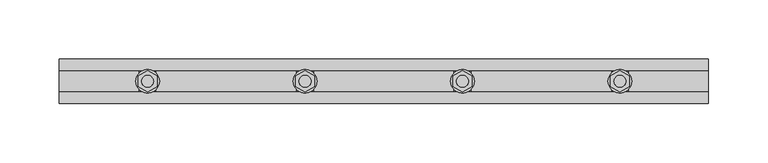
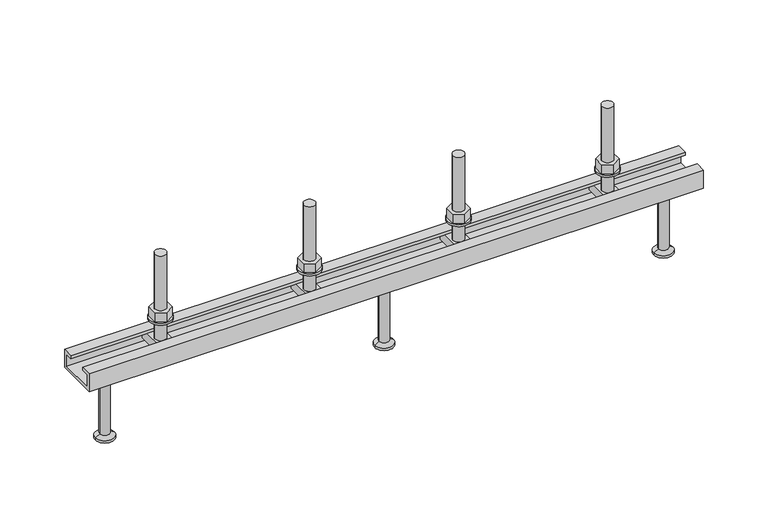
"""IFC4 building model written with IfcOpenShell, lengths in millimetres: fastener geometry, JTA-K JORDAHL® AnchorChannels : JTA-K L=550 mm."""

from ifc_helpers import new_model, si_unit, point, frame, frame_2d, origin, place, context, project, spatial, polyline, circle_curve, trimmed, segment, composite_curve, outline, extrude, source, transform, mapped, element, save
from ifc_brep_helpers import plane_surface, cylinder_surface, revolved_surface, advanced_brep


def fastener_b281879b(model_context):
    return source(origin(), model_context, "Body", "SolidModel", [
        extrude(outline(polyline([(341.6666667, 9.2376043), (349.6666667, 4.6188022), (349.6666667, -4.6188022), (341.6666667, -9.2376043), (333.6666667, -4.6188022), (333.6666667, 4.6188022), (341.6666667, 9.2376043)]), holes=[composite_curve([segment(trimmed(circle_curve(frame_2d((341.6666667, 0.0)), 5.0), [point((336.6666667, 0.0))], [point((346.6666667, 0.0))], True, "CARTESIAN"), True, "CONTINUOUS"), segment(trimmed(circle_curve(frame_2d((341.6666667, 0.0)), 5.0), [point((346.6666667, 0.0))], [point((336.6666667, 0.0))], True, "CARTESIAN"), True, "CONTINUOUS")], self_intersect=False)]), frame((0.0, 0.0, 17.0), z_axis=(0.0, 0.0, 1.0), x_axis=(1.0, 0.0, 0.0)), (0.0, 0.0, 1.0), 8.4),
        extrude(outline(composite_curve([segment(trimmed(circle_curve(frame_2d((341.6666667, 0.0)), 10.0), [point((331.6666667, 0.0))], [point((351.6666667, 0.0))], False, "CARTESIAN"), True, "CONTINUOUS"), segment(trimmed(circle_curve(frame_2d((341.6666667, 0.0)), 10.0), [point((351.6666667, 0.0))], [point((331.6666667, 0.0))], False, "CARTESIAN"), True, "CONTINUOUS")], self_intersect=False), holes=[composite_curve([segment(trimmed(circle_curve(frame_2d((341.6666667, 0.0)), 5.25), [point((336.4166667, 0.0))], [point((346.9166667, 0.0))], True, "CARTESIAN"), True, "CONTINUOUS"), segment(trimmed(circle_curve(frame_2d((341.6666667, 0.0)), 5.25), [point((346.9166667, 0.0))], [point((336.4166667, 0.0))], True, "CARTESIAN"), True, "CONTINUOUS")], self_intersect=False)]), frame((0.0, 0.0, 15.0), z_axis=(0.0, 0.0, 1.0), x_axis=(1.0, 0.0, 0.0)), (0.0, 0.0, 1.0), 2.0),
        extrude(outline(polyline([(208.3333333, 9.2376043), (216.3333333, 4.6188022), (216.3333333, -4.6188022), (208.3333333, -9.2376043), (200.3333333, -4.6188022), (200.3333333, 4.6188022), (208.3333333, 9.2376043)]), holes=[composite_curve([segment(trimmed(circle_curve(frame_2d((208.3333333, 0.0)), 5.0), [point((203.3333333, 0.0))], [point((213.3333333, 0.0))], True, "CARTESIAN"), True, "CONTINUOUS"), segment(trimmed(circle_curve(frame_2d((208.3333333, 0.0)), 5.0), [point((213.3333333, 0.0))], [point((203.3333333, 0.0))], True, "CARTESIAN"), True, "CONTINUOUS")], self_intersect=False)]), frame((0.0, 0.0, 17.0), z_axis=(0.0, 0.0, 1.0), x_axis=(1.0, 0.0, 0.0)), (0.0, 0.0, 1.0), 8.4),
        extrude(outline(composite_curve([segment(trimmed(circle_curve(frame_2d((208.3333333, 0.0)), 10.0), [point((198.3333333, 0.0))], [point((218.3333333, 0.0))], False, "CARTESIAN"), True, "CONTINUOUS"), segment(trimmed(circle_curve(frame_2d((208.3333333, 0.0)), 10.0), [point((218.3333333, 0.0))], [point((198.3333333, 0.0))], False, "CARTESIAN"), True, "CONTINUOUS")], self_intersect=False), holes=[composite_curve([segment(trimmed(circle_curve(frame_2d((208.3333333, 0.0)), 5.25), [point((203.0833333, 0.0))], [point((213.5833333, 0.0))], True, "CARTESIAN"), True, "CONTINUOUS"), segment(trimmed(circle_curve(frame_2d((208.3333333, 0.0)), 5.25), [point((213.5833333, 0.0))], [point((203.0833333, 0.0))], True, "CARTESIAN"), True, "CONTINUOUS")], self_intersect=False)]), frame((0.0, 0.0, 15.0), z_axis=(0.0, 0.0, 1.0), x_axis=(1.0, 0.0, 0.0)), (0.0, 0.0, 1.0), 2.0),
        advanced_brep(
        [(348.6666667, 16.0, -3.0), (348.6666667, -16.0, -3.0), (348.6666667, -16.0, -11.0), (348.6666667, 16.0, -11.0), (334.6666667, 16.0, -3.0), (334.6666667, 16.0, -11.0), (334.6666667, -16.0, -11.0), (334.6666667, -16.0, -3.0), (346.6666667, 0.0, -3.0), (336.6666667, 0.0, -3.0), (336.6666667, 0.0, 77.0), (346.6666667, 0.0, 77.0)],
        [
            (0, 1),
            (1, 2),
            (2, 3),
            (3, 0),
            (4, 5),
            (5, 6),
            (6, 7),
            (7, 4),
            (0, 4),
            (7, 1),
            (8, 9, circle_curve(frame((341.6666667, 0.0, -3.0), z_axis=(0.0, 0.0, -1.0), x_axis=(1.0, 0.0, 0.0)), 5.0)),
            (9, 8, circle_curve(frame((341.6666667, 0.0, -3.0), z_axis=(0.0, 0.0, -1.0), x_axis=(1.0, 0.0, 0.0)), 5.0)),
            (6, 2),
            (5, 3),
            (10, 11, circle_curve(frame((341.6666667, 0.0, 77.0), z_axis=(0.0, 0.0, 1.0), x_axis=(1.0, 0.0, 0.0)), 5.0)),
            (11, 10, circle_curve(frame((341.6666667, 0.0, 77.0), z_axis=(0.0, 0.0, 1.0), x_axis=(1.0, 0.0, 0.0)), 5.0)),
            (10, 9),
            (8, 11),
        ],
        [
            plane_surface(frame((348.6666667, -16.0, -3.0), z_axis=(1.0, 0.0, 0.0), x_axis=(0.0, -1.0, 0.0))),
            plane_surface(frame((334.6666667, -16.0, -3.0), z_axis=(-1.0, 0.0, 0.0), x_axis=(0.0, 1.0, 0.0))),
            plane_surface(frame((348.6666667, 16.0, -3.0), z_axis=(0.0, 0.0, 1.0), x_axis=(-1.0, 0.0, 0.0))),
            plane_surface(frame((348.6666667, -16.0, -3.0), z_axis=(0.0, -1.0, 0.0), x_axis=(-1.0, 0.0, 0.0))),
            plane_surface(frame((348.6666667, -16.0, -11.0), z_axis=(0.0, 0.0, -1.0), x_axis=(-1.0, 0.0, 0.0))),
            plane_surface(frame((348.6666667, 16.0, -11.0), z_axis=(0.0, 1.0, 0.0), x_axis=(-1.0, 0.0, 0.0))),
            plane_surface(frame((346.6666667, 0.0, 77.0), z_axis=(0.0, 0.0, 1.0), x_axis=(0.0, 1.0, 0.0))),
            cylinder_surface(frame((341.6666667, 0.0, -3.0), z_axis=(0.0, 0.0, 1.0), x_axis=(1.0, 0.0, 0.0)), 5.0),
        ],
        [
            (0, [[1, 2, 3, 4]]),
            (1, [[5, 6, 7, 8]]),
            (2, [[-1, 9, -8, 10], [11, 12]]),
            (3, [[-2, -10, -7, 13]]),
            (4, [[-3, -13, -6, 14]]),
            (5, [[-4, -14, -5, -9]]),
            (6, [[15, 16]]),
            (7, [[-15, 17, -11, 18]]),
            (7, [[-16, -18, -12, -17]]),
        ],
    ),
        advanced_brep(
        [(215.3333333, 16.0, -3.0), (215.3333333, -16.0, -3.0), (215.3333333, -16.0, -11.0), (215.3333333, 16.0, -11.0), (201.3333333, 16.0, -3.0), (201.3333333, 16.0, -11.0), (201.3333333, -16.0, -11.0), (201.3333333, -16.0, -3.0), (213.3333333, 0.0, -3.0), (203.3333333, 0.0, -3.0), (203.3333333, 0.0, 77.0), (213.3333333, 0.0, 77.0)],
        [
            (0, 1),
            (1, 2),
            (2, 3),
            (3, 0),
            (4, 5),
            (5, 6),
            (6, 7),
            (7, 4),
            (0, 4),
            (7, 1),
            (8, 9, circle_curve(frame((208.3333333, 0.0, -3.0), z_axis=(0.0, 0.0, -1.0), x_axis=(1.0, 0.0, 0.0)), 5.0)),
            (9, 8, circle_curve(frame((208.3333333, 0.0, -3.0), z_axis=(0.0, 0.0, -1.0), x_axis=(1.0, 0.0, 0.0)), 5.0)),
            (6, 2),
            (5, 3),
            (10, 11, circle_curve(frame((208.3333333, 0.0, 77.0), z_axis=(0.0, 0.0, 1.0), x_axis=(1.0, 0.0, 0.0)), 5.0)),
            (11, 10, circle_curve(frame((208.3333333, 0.0, 77.0), z_axis=(0.0, 0.0, 1.0), x_axis=(1.0, 0.0, 0.0)), 5.0)),
            (10, 9),
            (8, 11),
        ],
        [
            plane_surface(frame((215.3333333, -16.0, -3.0), z_axis=(1.0, 0.0, 0.0), x_axis=(0.0, -1.0, 0.0))),
            plane_surface(frame((201.3333333, -16.0, -3.0), z_axis=(-1.0, 0.0, 0.0), x_axis=(0.0, 1.0, 0.0))),
            plane_surface(frame((215.3333333, 16.0, -3.0), z_axis=(0.0, 0.0, 1.0), x_axis=(-1.0, 0.0, 0.0))),
            plane_surface(frame((215.3333333, -16.0, -3.0), z_axis=(0.0, -1.0, 0.0), x_axis=(-1.0, 0.0, 0.0))),
            plane_surface(frame((215.3333333, -16.0, -11.0), z_axis=(0.0, 0.0, -1.0), x_axis=(-1.0, 0.0, 0.0))),
            plane_surface(frame((215.3333333, 16.0, -11.0), z_axis=(0.0, 1.0, 0.0), x_axis=(-1.0, 0.0, 0.0))),
            plane_surface(frame((213.3333333, 0.0, 77.0), z_axis=(0.0, 0.0, 1.0), x_axis=(0.0, 1.0, 0.0))),
            cylinder_surface(frame((208.3333333, 0.0, -3.0), z_axis=(0.0, 0.0, 1.0), x_axis=(1.0, 0.0, 0.0)), 5.0),
        ],
        [
            (0, [[1, 2, 3, 4]]),
            (1, [[5, 6, 7, 8]]),
            (2, [[-1, 9, -8, 10], [11, 12]]),
            (3, [[-2, -10, -7, 13]]),
            (4, [[-3, -13, -6, 14]]),
            (5, [[-4, -14, -5, -9]]),
            (6, [[15, 16]]),
            (7, [[-15, 17, -11, 18]]),
            (7, [[-16, -18, -12, -17]]),
        ],
    ),
        advanced_brep(
        [(275.0, 0.0, -17.0), (288.5, 0.0, -17.0), (261.5, 0.0, -17.0), (266.5, 0.0, -80.0), (283.5, 0.0, -80.0), (275.0, 0.0, -80.0), (266.5, 0.0, -78.0), (283.5, 0.0, -78.0), (270.5, 0.0, -75.6905989), (279.5, 0.0, -75.6905989), (270.5, 0.0, -19.5), (279.5, 0.0, -19.5)],
        [
            (0, 1),
            (1, 2, circle_curve(frame((275.0, 0.0, -17.0), z_axis=(0.0, 0.0, 1.0), x_axis=(1.0, 0.0, 0.0)), 13.5)),
            (2, 0),
            (2, 1, circle_curve(frame((275.0, 0.0, -17.0), z_axis=(0.0, 0.0, 1.0), x_axis=(1.0, 0.0, 0.0)), 13.5)),
            (3, 4, circle_curve(frame((275.0, 0.0, -80.0), z_axis=(0.0, 0.0, -1.0), x_axis=(1.0, 0.0, 0.0)), 8.5)),
            (4, 5),
            (5, 3),
            (4, 3, circle_curve(frame((275.0, 0.0, -80.0), z_axis=(0.0, 0.0, -1.0), x_axis=(1.0, 0.0, 0.0)), 8.5)),
            (6, 7, circle_curve(frame((275.0, 0.0, -78.0), z_axis=(0.0, 0.0, -1.0), x_axis=(1.0, 0.0, 0.0)), 8.5)),
            (7, 4),
            (3, 6),
            (7, 6, circle_curve(frame((275.0, 0.0, -78.0), z_axis=(0.0, 0.0, -1.0), x_axis=(1.0, 0.0, 0.0)), 8.5)),
            (8, 9, circle_curve(frame((275.0, 0.0, -75.6905989), z_axis=(0.0, 0.0, -1.0), x_axis=(1.0, 0.0, 0.0)), 4.5)),
            (9, 7),
            (6, 8),
            (9, 8, circle_curve(frame((275.0, 0.0, -75.6905989), z_axis=(0.0, 0.0, -1.0), x_axis=(1.0, 0.0, 0.0)), 4.5)),
            (10, 11, circle_curve(frame((275.0, 0.0, -19.5), z_axis=(0.0, 0.0, -1.0), x_axis=(1.0, 0.0, 0.0)), 4.5)),
            (11, 9),
            (8, 10),
            (11, 10, circle_curve(frame((275.0, 0.0, -19.5), z_axis=(0.0, 0.0, -1.0), x_axis=(1.0, 0.0, 0.0)), 4.5)),
            (1, 11),
            (10, 2),
        ],
        [
            plane_surface(frame((275.0, 0.0, -17.0), z_axis=(0.0, 0.0, 1.0), x_axis=(1.0, 0.0, 0.0))),
            plane_surface(frame((275.0, 0.0, -80.0), z_axis=(0.0, 0.0, -1.0), x_axis=(1.0, 0.0, 0.0))),
            cylinder_surface(frame((275.0, 0.0, 2277.3150031), z_axis=(0.0, 0.0, 1.0), x_axis=(1.0, 0.0, 0.0)), 8.5),
            revolved_surface(polyline([(283.5, 0.0, -78.0), (279.5, 0.0, -75.6905989)]), (275.0, 0.0, 2277.3150031), (0.0, 0.0, 1.0)),
            cylinder_surface(frame((275.0, 0.0, 2277.3150031), z_axis=(0.0, 0.0, 1.0), x_axis=(1.0, 0.0, 0.0)), 4.5),
            revolved_surface(polyline([(279.5, 0.0, -19.5), (288.5, 0.0, -17.0)]), (275.0, 0.0, 2277.3150031), (0.0, 0.0, 1.0)),
        ],
        [
            (0, [[1, 2, 3]]),
            (0, [[-3, 4, -1]]),
            (1, [[5, 6, 7]]),
            (1, [[8, -7, -6]]),
            (2, [[9, 10, -5, 11]]),
            (2, [[12, -11, -8, -10]]),
            (3, [[13, 14, -9, 15]]),
            (3, [[16, -15, -12, -14]]),
            (4, [[17, 18, -13, 19]]),
            (4, [[20, -19, -16, -18]]),
            (5, [[-2, 21, -17, 22]]),
            (5, [[-4, -22, -20, -21]]),
        ],
    ),
        extrude(outline(polyline([(475.0, 9.2376043), (483.0, 4.6188022), (483.0, -4.6188022), (475.0, -9.2376043), (467.0, -4.6188022), (467.0, 4.6188022), (475.0, 9.2376043)]), holes=[composite_curve([segment(trimmed(circle_curve(frame_2d((475.0, 0.0)), 5.0), [point((470.0, 0.0))], [point((480.0, 0.0))], True, "CARTESIAN"), True, "CONTINUOUS"), segment(trimmed(circle_curve(frame_2d((475.0, 0.0)), 5.0), [point((480.0, 0.0))], [point((470.0, 0.0))], True, "CARTESIAN"), True, "CONTINUOUS")], self_intersect=False)]), frame((0.0, 0.0, 17.0), z_axis=(0.0, 0.0, 1.0), x_axis=(1.0, 0.0, 0.0)), (0.0, 0.0, 1.0), 8.4),
        extrude(outline(composite_curve([segment(trimmed(circle_curve(frame_2d((475.0, 0.0)), 10.0), [point((465.0, 0.0))], [point((485.0, 0.0))], False, "CARTESIAN"), True, "CONTINUOUS"), segment(trimmed(circle_curve(frame_2d((475.0, 0.0)), 10.0), [point((485.0, 0.0))], [point((465.0, 0.0))], False, "CARTESIAN"), True, "CONTINUOUS")], self_intersect=False), holes=[composite_curve([segment(trimmed(circle_curve(frame_2d((475.0, 0.0)), 5.25), [point((469.75, 0.0))], [point((480.25, 0.0))], True, "CARTESIAN"), True, "CONTINUOUS"), segment(trimmed(circle_curve(frame_2d((475.0, 0.0)), 5.25), [point((480.25, 0.0))], [point((469.75, 0.0))], True, "CARTESIAN"), True, "CONTINUOUS")], self_intersect=False)]), frame((0.0, 0.0, 15.0), z_axis=(0.0, 0.0, 1.0), x_axis=(1.0, 0.0, 0.0)), (0.0, 0.0, 1.0), 2.0),
        extrude(outline(polyline([(75.0, 9.2376043), (83.0, 4.6188022), (83.0, -4.6188022), (75.0, -9.2376043), (67.0, -4.6188022), (67.0, 4.6188022), (75.0, 9.2376043)]), holes=[composite_curve([segment(trimmed(circle_curve(frame_2d((75.0, 0.0)), 5.0), [point((70.0, 0.0))], [point((80.0, 0.0))], True, "CARTESIAN"), True, "CONTINUOUS"), segment(trimmed(circle_curve(frame_2d((75.0, 0.0)), 5.0), [point((80.0, 0.0))], [point((70.0, 0.0))], True, "CARTESIAN"), True, "CONTINUOUS")], self_intersect=False)]), frame((0.0, 0.0, 17.0), z_axis=(0.0, 0.0, 1.0), x_axis=(1.0, 0.0, 0.0)), (0.0, 0.0, 1.0), 8.4),
        extrude(outline(composite_curve([segment(trimmed(circle_curve(frame_2d((75.0, 0.0)), 10.0), [point((65.0, 0.0))], [point((85.0, 0.0))], False, "CARTESIAN"), True, "CONTINUOUS"), segment(trimmed(circle_curve(frame_2d((75.0, 0.0)), 10.0), [point((85.0, 0.0))], [point((65.0, 0.0))], False, "CARTESIAN"), True, "CONTINUOUS")], self_intersect=False), holes=[composite_curve([segment(trimmed(circle_curve(frame_2d((75.0, 0.0)), 5.25), [point((69.75, 0.0))], [point((80.25, 0.0))], True, "CARTESIAN"), True, "CONTINUOUS"), segment(trimmed(circle_curve(frame_2d((75.0, 0.0)), 5.25), [point((80.25, 0.0))], [point((69.75, 0.0))], True, "CARTESIAN"), True, "CONTINUOUS")], self_intersect=False)]), frame((0.0, 0.0, 15.0), z_axis=(0.0, 0.0, 1.0), x_axis=(1.0, 0.0, 0.0)), (0.0, 0.0, 1.0), 2.0),
        advanced_brep(
        [(482.0, 16.0, -3.0), (482.0, -16.0, -3.0), (482.0, -16.0, -11.0), (482.0, 16.0, -11.0), (468.0, 16.0, -3.0), (468.0, 16.0, -11.0), (468.0, -16.0, -11.0), (468.0, -16.0, -3.0), (480.0, 0.0, -3.0), (470.0, 0.0, -3.0), (470.0, 0.0, 77.0), (480.0, 0.0, 77.0)],
        [
            (0, 1),
            (1, 2),
            (2, 3),
            (3, 0),
            (4, 5),
            (5, 6),
            (6, 7),
            (7, 4),
            (0, 4),
            (7, 1),
            (8, 9, circle_curve(frame((475.0, 0.0, -3.0), z_axis=(0.0, 0.0, -1.0), x_axis=(1.0, 0.0, 0.0)), 5.0)),
            (9, 8, circle_curve(frame((475.0, 0.0, -3.0), z_axis=(0.0, 0.0, -1.0), x_axis=(1.0, 0.0, 0.0)), 5.0)),
            (6, 2),
            (5, 3),
            (10, 11, circle_curve(frame((475.0, 0.0, 77.0), z_axis=(0.0, 0.0, 1.0), x_axis=(1.0, 0.0, 0.0)), 5.0)),
            (11, 10, circle_curve(frame((475.0, 0.0, 77.0), z_axis=(0.0, 0.0, 1.0), x_axis=(1.0, 0.0, 0.0)), 5.0)),
            (10, 9),
            (8, 11),
        ],
        [
            plane_surface(frame((482.0, -16.0, -3.0), z_axis=(1.0, 0.0, 0.0), x_axis=(0.0, -1.0, 0.0))),
            plane_surface(frame((468.0, -16.0, -3.0), z_axis=(-1.0, 0.0, 0.0), x_axis=(0.0, 1.0, 0.0))),
            plane_surface(frame((482.0, 16.0, -3.0), z_axis=(0.0, 0.0, 1.0), x_axis=(-1.0, 0.0, 0.0))),
            plane_surface(frame((482.0, -16.0, -3.0), z_axis=(0.0, -1.0, 0.0), x_axis=(-1.0, 0.0, 0.0))),
            plane_surface(frame((482.0, -16.0, -11.0), z_axis=(0.0, 0.0, -1.0), x_axis=(-1.0, 0.0, 0.0))),
            plane_surface(frame((482.0, 16.0, -11.0), z_axis=(0.0, 1.0, 0.0), x_axis=(-1.0, 0.0, 0.0))),
            plane_surface(frame((480.0, 0.0, 77.0), z_axis=(0.0, 0.0, 1.0), x_axis=(0.0, 1.0, 0.0))),
            cylinder_surface(frame((475.0, 0.0, -3.0), z_axis=(0.0, 0.0, 1.0), x_axis=(1.0, 0.0, 0.0)), 5.0),
        ],
        [
            (0, [[1, 2, 3, 4]]),
            (1, [[5, 6, 7, 8]]),
            (2, [[-1, 9, -8, 10], [11, 12]]),
            (3, [[-2, -10, -7, 13]]),
            (4, [[-3, -13, -6, 14]]),
            (5, [[-4, -14, -5, -9]]),
            (6, [[15, 16]]),
            (7, [[-15, 17, -11, 18]]),
            (7, [[-16, -18, -12, -17]]),
        ],
    ),
        advanced_brep(
        [(82.0, 16.0, -3.0), (82.0, -16.0, -3.0), (82.0, -16.0, -11.0), (82.0, 16.0, -11.0), (68.0, 16.0, -3.0), (68.0, 16.0, -11.0), (68.0, -16.0, -11.0), (68.0, -16.0, -3.0), (80.0, 0.0, -3.0), (70.0, 0.0, -3.0), (70.0, 0.0, 77.0), (80.0, 0.0, 77.0)],
        [
            (0, 1),
            (1, 2),
            (2, 3),
            (3, 0),
            (4, 5),
            (5, 6),
            (6, 7),
            (7, 4),
            (0, 4),
            (7, 1),
            (8, 9, circle_curve(frame((75.0, 0.0, -3.0), z_axis=(0.0, 0.0, -1.0), x_axis=(1.0, 0.0, 0.0)), 5.0)),
            (9, 8, circle_curve(frame((75.0, 0.0, -3.0), z_axis=(0.0, 0.0, -1.0), x_axis=(1.0, 0.0, 0.0)), 5.0)),
            (6, 2),
            (5, 3),
            (10, 11, circle_curve(frame((75.0, 0.0, 77.0), z_axis=(0.0, 0.0, 1.0), x_axis=(1.0, 0.0, 0.0)), 5.0)),
            (11, 10, circle_curve(frame((75.0, 0.0, 77.0), z_axis=(0.0, 0.0, 1.0), x_axis=(1.0, 0.0, 0.0)), 5.0)),
            (10, 9),
            (8, 11),
        ],
        [
            plane_surface(frame((82.0, -16.0, -3.0), z_axis=(1.0, 0.0, 0.0), x_axis=(0.0, -1.0, 0.0))),
            plane_surface(frame((68.0, -16.0, -3.0), z_axis=(-1.0, 0.0, 0.0), x_axis=(0.0, 1.0, 0.0))),
            plane_surface(frame((82.0, 16.0, -3.0), z_axis=(0.0, 0.0, 1.0), x_axis=(-1.0, 0.0, 0.0))),
            plane_surface(frame((82.0, -16.0, -3.0), z_axis=(0.0, -1.0, 0.0), x_axis=(-1.0, 0.0, 0.0))),
            plane_surface(frame((82.0, -16.0, -11.0), z_axis=(0.0, 0.0, -1.0), x_axis=(-1.0, 0.0, 0.0))),
            plane_surface(frame((82.0, 16.0, -11.0), z_axis=(0.0, 1.0, 0.0), x_axis=(-1.0, 0.0, 0.0))),
            plane_surface(frame((80.0, 0.0, 77.0), z_axis=(0.0, 0.0, 1.0), x_axis=(0.0, 1.0, 0.0))),
            cylinder_surface(frame((75.0, 0.0, -3.0), z_axis=(0.0, 0.0, 1.0), x_axis=(1.0, 0.0, 0.0)), 5.0),
        ],
        [
            (0, [[1, 2, 3, 4]]),
            (1, [[5, 6, 7, 8]]),
            (2, [[-1, 9, -8, 10], [11, 12]]),
            (3, [[-2, -10, -7, 13]]),
            (4, [[-3, -13, -6, 14]]),
            (5, [[-4, -14, -5, -9]]),
            (6, [[15, 16]]),
            (7, [[-15, 17, -11, 18]]),
            (7, [[-16, -18, -12, -17]]),
        ],
    ),
        advanced_brep(
        [(525.0, 0.0, -17.0), (538.5, 0.0, -17.0), (511.5, 0.0, -17.0), (516.5, 0.0, -80.0), (533.5, 0.0, -80.0), (525.0, 0.0, -80.0), (516.5, 0.0, -78.0), (533.5, 0.0, -78.0), (520.5, 0.0, -75.6905989), (529.5, 0.0, -75.6905989), (520.5, 0.0, -19.5), (529.5, 0.0, -19.5)],
        [
            (0, 1),
            (1, 2, circle_curve(frame((525.0, 0.0, -17.0), z_axis=(0.0, 0.0, 1.0), x_axis=(1.0, 0.0, 0.0)), 13.5)),
            (2, 0),
            (2, 1, circle_curve(frame((525.0, 0.0, -17.0), z_axis=(0.0, 0.0, 1.0), x_axis=(1.0, 0.0, 0.0)), 13.5)),
            (3, 4, circle_curve(frame((525.0, 0.0, -80.0), z_axis=(0.0, 0.0, -1.0), x_axis=(1.0, 0.0, 0.0)), 8.5)),
            (4, 5),
            (5, 3),
            (4, 3, circle_curve(frame((525.0, 0.0, -80.0), z_axis=(0.0, 0.0, -1.0), x_axis=(1.0, 0.0, 0.0)), 8.5)),
            (6, 7, circle_curve(frame((525.0, 0.0, -78.0), z_axis=(0.0, 0.0, -1.0), x_axis=(1.0, 0.0, 0.0)), 8.5)),
            (7, 4),
            (3, 6),
            (7, 6, circle_curve(frame((525.0, 0.0, -78.0), z_axis=(0.0, 0.0, -1.0), x_axis=(1.0, 0.0, 0.0)), 8.5)),
            (8, 9, circle_curve(frame((525.0, 0.0, -75.6905989), z_axis=(0.0, 0.0, -1.0), x_axis=(1.0, 0.0, 0.0)), 4.5)),
            (9, 7),
            (6, 8),
            (9, 8, circle_curve(frame((525.0, 0.0, -75.6905989), z_axis=(0.0, 0.0, -1.0), x_axis=(1.0, 0.0, 0.0)), 4.5)),
            (10, 11, circle_curve(frame((525.0, 0.0, -19.5), z_axis=(0.0, 0.0, -1.0), x_axis=(1.0, 0.0, 0.0)), 4.5)),
            (11, 9),
            (8, 10),
            (11, 10, circle_curve(frame((525.0, 0.0, -19.5), z_axis=(0.0, 0.0, -1.0), x_axis=(1.0, 0.0, 0.0)), 4.5)),
            (1, 11),
            (10, 2),
        ],
        [
            plane_surface(frame((525.0, 0.0, -17.0), z_axis=(0.0, 0.0, 1.0), x_axis=(1.0, 0.0, 0.0))),
            plane_surface(frame((525.0, 0.0, -80.0), z_axis=(0.0, 0.0, -1.0), x_axis=(1.0, 0.0, 0.0))),
            cylinder_surface(frame((525.0, 0.0, 2277.3150031), z_axis=(0.0, 0.0, 1.0), x_axis=(1.0, 0.0, 0.0)), 8.5),
            revolved_surface(polyline([(533.5, 0.0, -78.0), (529.5, 0.0, -75.6905989)]), (525.0, 0.0, 2277.3150031), (0.0, 0.0, 1.0)),
            cylinder_surface(frame((525.0, 0.0, 2277.3150031), z_axis=(0.0, 0.0, 1.0), x_axis=(1.0, 0.0, 0.0)), 4.5),
            revolved_surface(polyline([(529.5, 0.0, -19.5), (538.5, 0.0, -17.0)]), (525.0, 0.0, 2277.3150031), (0.0, 0.0, 1.0)),
        ],
        [
            (0, [[1, 2, 3]]),
            (0, [[-3, 4, -1]]),
            (1, [[5, 6, 7]]),
            (1, [[8, -7, -6]]),
            (2, [[9, 10, -5, 11]]),
            (2, [[12, -11, -8, -10]]),
            (3, [[13, 14, -9, 15]]),
            (3, [[16, -15, -12, -14]]),
            (4, [[17, 18, -13, 19]]),
            (4, [[20, -19, -16, -18]]),
            (5, [[-2, 21, -17, 22]]),
            (5, [[-4, -22, -20, -21]]),
        ],
    ),
        advanced_brep(
        [(25.0, 0.0, -17.0), (38.5, 0.0, -17.0), (11.5, 0.0, -17.0), (16.5, 0.0, -80.0), (33.5, 0.0, -80.0), (25.0, 0.0, -80.0), (16.5, 0.0, -78.0), (33.5, 0.0, -78.0), (20.5, 0.0, -75.6905989), (29.5, 0.0, -75.6905989), (20.5, 0.0, -19.5), (29.5, 0.0, -19.5)],
        [
            (0, 1),
            (1, 2, circle_curve(frame((25.0, 0.0, -17.0), z_axis=(0.0, 0.0, 1.0), x_axis=(1.0, 0.0, 0.0)), 13.5)),
            (2, 0),
            (2, 1, circle_curve(frame((25.0, 0.0, -17.0), z_axis=(0.0, 0.0, 1.0), x_axis=(1.0, 0.0, 0.0)), 13.5)),
            (3, 4, circle_curve(frame((25.0, 0.0, -80.0), z_axis=(0.0, 0.0, -1.0), x_axis=(1.0, 0.0, 0.0)), 8.5)),
            (4, 5),
            (5, 3),
            (4, 3, circle_curve(frame((25.0, 0.0, -80.0), z_axis=(0.0, 0.0, -1.0), x_axis=(1.0, 0.0, 0.0)), 8.5)),
            (6, 7, circle_curve(frame((25.0, 0.0, -78.0), z_axis=(0.0, 0.0, -1.0), x_axis=(1.0, 0.0, 0.0)), 8.5)),
            (7, 4),
            (3, 6),
            (7, 6, circle_curve(frame((25.0, 0.0, -78.0), z_axis=(0.0, 0.0, -1.0), x_axis=(1.0, 0.0, 0.0)), 8.5)),
            (8, 9, circle_curve(frame((25.0, 0.0, -75.6905989), z_axis=(0.0, 0.0, -1.0), x_axis=(1.0, 0.0, 0.0)), 4.5)),
            (9, 7),
            (6, 8),
            (9, 8, circle_curve(frame((25.0, 0.0, -75.6905989), z_axis=(0.0, 0.0, -1.0), x_axis=(1.0, 0.0, 0.0)), 4.5)),
            (10, 11, circle_curve(frame((25.0, 0.0, -19.5), z_axis=(0.0, 0.0, -1.0), x_axis=(1.0, 0.0, 0.0)), 4.5)),
            (11, 9),
            (8, 10),
            (11, 10, circle_curve(frame((25.0, 0.0, -19.5), z_axis=(0.0, 0.0, -1.0), x_axis=(1.0, 0.0, 0.0)), 4.5)),
            (1, 11),
            (10, 2),
        ],
        [
            plane_surface(frame((25.0, 0.0, -17.0), z_axis=(0.0, 0.0, 1.0), x_axis=(1.0, 0.0, 0.0))),
            plane_surface(frame((25.0, 0.0, -80.0), z_axis=(0.0, 0.0, -1.0), x_axis=(1.0, 0.0, 0.0))),
            cylinder_surface(frame((25.0, 0.0, 2277.3150031), z_axis=(0.0, 0.0, 1.0), x_axis=(1.0, 0.0, 0.0)), 8.5),
            revolved_surface(polyline([(33.5, 0.0, -78.0), (29.5, 0.0, -75.6905989)]), (25.0, 0.0, 2277.3150031), (0.0, 0.0, 1.0)),
            cylinder_surface(frame((25.0, 0.0, 2277.3150031), z_axis=(0.0, 0.0, 1.0), x_axis=(1.0, 0.0, 0.0)), 4.5),
            revolved_surface(polyline([(29.5, 0.0, -19.5), (38.5, 0.0, -17.0)]), (25.0, 0.0, 2277.3150031), (0.0, 0.0, 1.0)),
        ],
        [
            (0, [[1, 2, 3]]),
            (0, [[-3, 4, -1]]),
            (1, [[5, 6, 7]]),
            (1, [[8, -7, -6]]),
            (2, [[9, 10, -5, 11]]),
            (2, [[12, -11, -8, -10]]),
            (3, [[13, 14, -9, 15]]),
            (3, [[16, -15, -12, -14]]),
            (4, [[17, 18, -13, 19]]),
            (4, [[20, -19, -16, -18]]),
            (5, [[-2, 21, -17, 22]]),
            (5, [[-4, -22, -20, -21]]),
        ],
    ),
        extrude(outline(polyline([(19.0, 0.0), (19.0, -17.0), (-19.0, -17.0), (-19.0, 0.0), (-9.0, 0.0), (-9.0, -3.0), (-16.0, -3.0), (-16.0, -14.0), (16.0, -14.0), (16.0, -3.0), (9.0, -3.0), (9.0, 0.0), (19.0, 0.0)])), frame((0.0, 0.0, 0.0), z_axis=(1.0, 0.0, 0.0), x_axis=(0.0, 1.0, 0.0)), (0.0, 0.0, 1.0), 550.0),
    ])


if __name__ == "__main__":
    model = new_model("IFC4")
    model_context = context("Model", 3, world=origin())
    ifc_project = project(units=[si_unit("LENGTHUNIT", "METRE", prefix="MILLI")], contexts=[model_context])
    site = spatial("IfcSite", under=ifc_project)
    building = spatial("IfcBuilding", under=site)
    placement = place(None, origin())
    fastener_shape = fastener_b281879b(model_context)
    element("IfcFastener", 1, ObjectType="JTA-K JORDAHL® AnchorChannels : JTA-K L=550 mm", at=placement, inside=building, context=model_context, shape_type="MappedRepresentation", body=[
        mapped(fastener_shape, transform((0.0, 0.0, 0.0), x_axis=(1.0, 0.0, 0.0), y_axis=(0.0, 1.0, 0.0), z_axis=(0.0, 0.0, 1.0))),
    ])
    save(model, "model.ifc")
